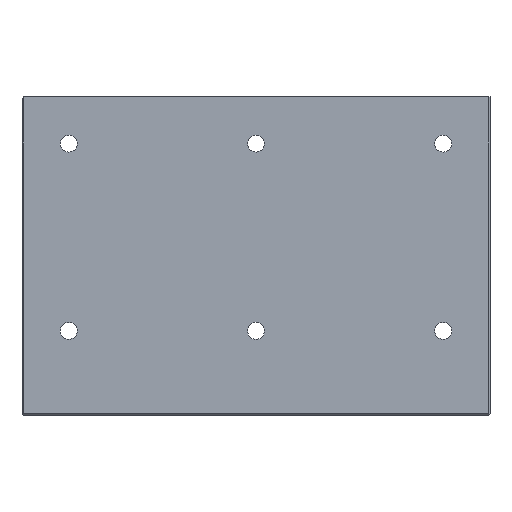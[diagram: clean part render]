
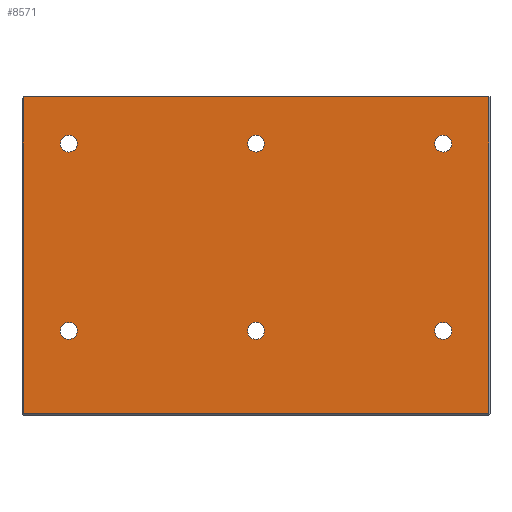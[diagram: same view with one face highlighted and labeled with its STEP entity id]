
A CAD part, front view. The second image highlights one B-rep face of the part: STEP entity #8571.
In plain terms, the highlighted planar face has unit normal (0, -1, 0).
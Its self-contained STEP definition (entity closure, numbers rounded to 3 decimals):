
#987=DIRECTION('',(0.,0.,-1.));
#988=VECTOR('',#987,338.5);
#989=CARTESIAN_POINT('',(248.5,0.,340.));
#990=LINE('',#989,#988);
#991=DIRECTION('',(-1.,0.,0.));
#992=VECTOR('',#991,497.);
#993=CARTESIAN_POINT('',(248.5,0.,1.5));
#994=LINE('',#993,#992);
#995=DIRECTION('',(0.,0.,1.));
#996=VECTOR('',#995,338.5);
#997=CARTESIAN_POINT('',(-248.5,0.,1.5));
#998=LINE('',#997,#996);
#999=DIRECTION('',(1.,0.,0.));
#1000=VECTOR('',#999,497.);
#1001=CARTESIAN_POINT('',(-248.5,0.,340.));
#1002=LINE('',#1001,#1000);
#1003=CARTESIAN_POINT('',(200.,0.,90.));
#1004=DIRECTION('',(0.,1.,0.));
#1005=DIRECTION('',(1.,0.,0.));
#1006=AXIS2_PLACEMENT_3D('',#1003,#1004,#1005);
#1008=CARTESIAN_POINT('',(200.,0.,90.));
#1009=DIRECTION('',(0.,1.,0.));
#1010=DIRECTION('',(-1.,0.,0.));
#1011=AXIS2_PLACEMENT_3D('',#1008,#1009,#1010);
#1013=CARTESIAN_POINT('',(200.,0.,290.));
#1014=DIRECTION('',(0.,1.,0.));
#1015=DIRECTION('',(1.,0.,0.));
#1016=AXIS2_PLACEMENT_3D('',#1013,#1014,#1015);
#1018=CARTESIAN_POINT('',(200.,0.,290.));
#1019=DIRECTION('',(0.,1.,0.));
#1020=DIRECTION('',(-1.,0.,0.));
#1021=AXIS2_PLACEMENT_3D('',#1018,#1019,#1020);
#1023=CARTESIAN_POINT('',(0.,0.,90.));
#1024=DIRECTION('',(0.,1.,0.));
#1025=DIRECTION('',(1.,0.,0.));
#1026=AXIS2_PLACEMENT_3D('',#1023,#1024,#1025);
#1028=CARTESIAN_POINT('',(0.,0.,90.));
#1029=DIRECTION('',(0.,1.,0.));
#1030=DIRECTION('',(-1.,0.,0.));
#1031=AXIS2_PLACEMENT_3D('',#1028,#1029,#1030);
#1033=CARTESIAN_POINT('',(0.,0.,290.));
#1034=DIRECTION('',(0.,1.,0.));
#1035=DIRECTION('',(1.,0.,0.));
#1036=AXIS2_PLACEMENT_3D('',#1033,#1034,#1035);
#1038=CARTESIAN_POINT('',(0.,0.,290.));
#1039=DIRECTION('',(0.,1.,0.));
#1040=DIRECTION('',(-1.,0.,0.));
#1041=AXIS2_PLACEMENT_3D('',#1038,#1039,#1040);
#1043=CARTESIAN_POINT('',(-200.,0.,90.));
#1044=DIRECTION('',(0.,1.,0.));
#1045=DIRECTION('',(1.,0.,0.));
#1046=AXIS2_PLACEMENT_3D('',#1043,#1044,#1045);
#1048=CARTESIAN_POINT('',(-200.,0.,90.));
#1049=DIRECTION('',(0.,1.,0.));
#1050=DIRECTION('',(-1.,0.,0.));
#1051=AXIS2_PLACEMENT_3D('',#1048,#1049,#1050);
#1053=CARTESIAN_POINT('',(-200.,0.,290.));
#1054=DIRECTION('',(0.,1.,0.));
#1055=DIRECTION('',(1.,0.,0.));
#1056=AXIS2_PLACEMENT_3D('',#1053,#1054,#1055);
#1058=CARTESIAN_POINT('',(-200.,0.,290.));
#1059=DIRECTION('',(0.,1.,0.));
#1060=DIRECTION('',(-1.,0.,0.));
#1061=AXIS2_PLACEMENT_3D('',#1058,#1059,#1060);
#6093=CARTESIAN_POINT('',(248.5,0.,340.));
#6095=VERTEX_POINT('',#6093);
#6099=CARTESIAN_POINT('',(248.5,0.,1.5));
#6100=VERTEX_POINT('',#6099);
#6105=CARTESIAN_POINT('',(-248.5,0.,1.5));
#6106=VERTEX_POINT('',#6105);
#6119=CARTESIAN_POINT('',(-248.5,0.,340.));
#6120=VERTEX_POINT('',#6119);
#6193=CARTESIAN_POINT('',(209.,0.,90.));
#6194=CARTESIAN_POINT('',(191.,0.,90.));
#6195=VERTEX_POINT('',#6193);
#6196=VERTEX_POINT('',#6194);
#6209=CARTESIAN_POINT('',(209.,0.,290.));
#6210=CARTESIAN_POINT('',(191.,0.,290.));
#6211=VERTEX_POINT('',#6209);
#6212=VERTEX_POINT('',#6210);
#6225=CARTESIAN_POINT('',(9.,0.,90.));
#6226=VERTEX_POINT('',#6225);
#6227=CARTESIAN_POINT('',(-9.,0.,90.));
#6228=VERTEX_POINT('',#6227);
#6241=CARTESIAN_POINT('',(9.,0.,290.));
#6242=VERTEX_POINT('',#6241);
#6243=CARTESIAN_POINT('',(-9.,0.,290.));
#6244=VERTEX_POINT('',#6243);
#6257=CARTESIAN_POINT('',(-191.,0.,90.));
#6258=VERTEX_POINT('',#6257);
#6259=CARTESIAN_POINT('',(-209.,0.,90.));
#6260=VERTEX_POINT('',#6259);
#6273=CARTESIAN_POINT('',(-191.,0.,290.));
#6274=VERTEX_POINT('',#6273);
#6275=CARTESIAN_POINT('',(-209.,0.,290.));
#6276=VERTEX_POINT('',#6275);
#8524=CARTESIAN_POINT('',(-250.,0.,340.));
#8525=DIRECTION('',(0.,-1.,0.));
#8526=DIRECTION('',(0.,0.,-1.));
#8527=AXIS2_PLACEMENT_3D('',#8524,#8525,#8526);
#8528=PLANE('',#8527);
#8529=ORIENTED_EDGE('',*,*,#8519,.T.);
#8530=ORIENTED_EDGE('',*,*,#8284,.T.);
#8531=ORIENTED_EDGE('',*,*,#8301,.T.);
#8532=ORIENTED_EDGE('',*,*,#8486,.T.);
#8533=EDGE_LOOP('',(#8529,#8530,#8531,#8532));
#8534=FACE_OUTER_BOUND('',#8533,.F.);
#8536=ORIENTED_EDGE('',*,*,#8535,.F.);
#8538=ORIENTED_EDGE('',*,*,#8537,.F.);
#8539=EDGE_LOOP('',(#8536,#8538));
#8540=FACE_BOUND('',#8539,.F.);
#8542=ORIENTED_EDGE('',*,*,#8541,.F.);
#8544=ORIENTED_EDGE('',*,*,#8543,.F.);
#8545=EDGE_LOOP('',(#8542,#8544));
#8546=FACE_BOUND('',#8545,.F.);
#8548=ORIENTED_EDGE('',*,*,#8547,.F.);
#8550=ORIENTED_EDGE('',*,*,#8549,.F.);
#8551=EDGE_LOOP('',(#8548,#8550));
#8552=FACE_BOUND('',#8551,.F.);
#8554=ORIENTED_EDGE('',*,*,#8553,.F.);
#8556=ORIENTED_EDGE('',*,*,#8555,.F.);
#8557=EDGE_LOOP('',(#8554,#8556));
#8558=FACE_BOUND('',#8557,.F.);
#8560=ORIENTED_EDGE('',*,*,#8559,.F.);
#8562=ORIENTED_EDGE('',*,*,#8561,.F.);
#8563=EDGE_LOOP('',(#8560,#8562));
#8564=FACE_BOUND('',#8563,.F.);
#8566=ORIENTED_EDGE('',*,*,#8565,.F.);
#8568=ORIENTED_EDGE('',*,*,#8567,.F.);
#8569=EDGE_LOOP('',(#8566,#8568));
#8570=FACE_BOUND('',#8569,.F.);
#8571=ADVANCED_FACE('',(#8534,#8540,#8546,#8552,#8558,#8564,#8570),#8528,.T.);
#1007=CIRCLE('',#1006,9.);
#1012=CIRCLE('',#1011,9.);
#1017=CIRCLE('',#1016,9.);
#1022=CIRCLE('',#1021,9.);
#1027=CIRCLE('',#1026,9.);
#1032=CIRCLE('',#1031,9.);
#1037=CIRCLE('',#1036,9.);
#1042=CIRCLE('',#1041,9.);
#1047=CIRCLE('',#1046,9.);
#1052=CIRCLE('',#1051,9.);
#1057=CIRCLE('',#1056,9.);
#1062=CIRCLE('',#1061,9.);
#8284=EDGE_CURVE('',#6100,#6106,#994,.T.);
#8301=EDGE_CURVE('',#6106,#6120,#998,.T.);
#8486=EDGE_CURVE('',#6120,#6095,#1002,.T.);
#8519=EDGE_CURVE('',#6095,#6100,#990,.T.);
#8535=EDGE_CURVE('',#6195,#6196,#1007,.T.);
#8537=EDGE_CURVE('',#6196,#6195,#1012,.T.);
#8541=EDGE_CURVE('',#6211,#6212,#1017,.T.);
#8543=EDGE_CURVE('',#6212,#6211,#1022,.T.);
#8547=EDGE_CURVE('',#6226,#6228,#1027,.T.);
#8549=EDGE_CURVE('',#6228,#6226,#1032,.T.);
#8553=EDGE_CURVE('',#6242,#6244,#1037,.T.);
#8555=EDGE_CURVE('',#6244,#6242,#1042,.T.);
#8559=EDGE_CURVE('',#6258,#6260,#1047,.T.);
#8561=EDGE_CURVE('',#6260,#6258,#1052,.T.);
#8565=EDGE_CURVE('',#6274,#6276,#1057,.T.);
#8567=EDGE_CURVE('',#6276,#6274,#1062,.T.);
